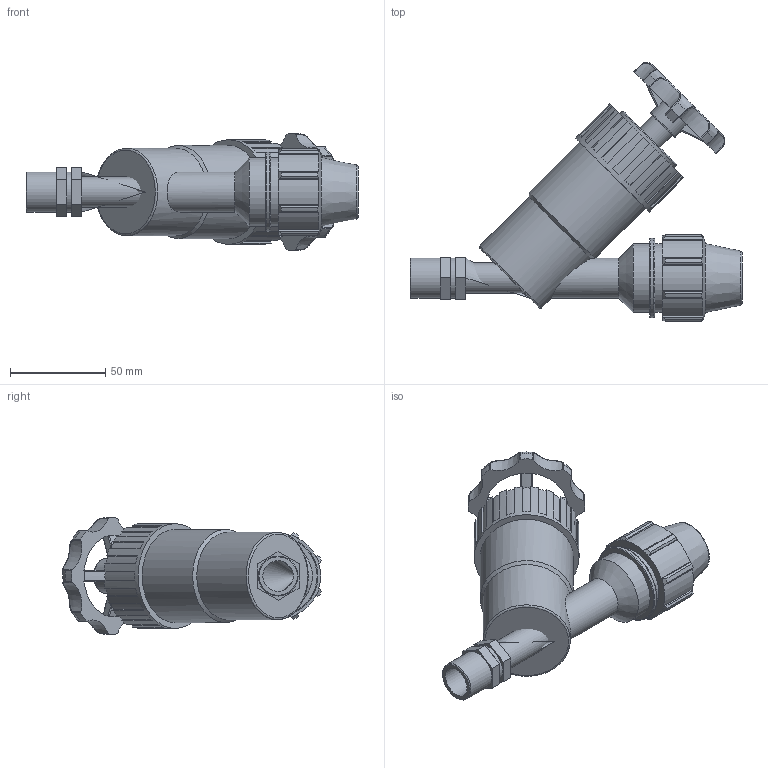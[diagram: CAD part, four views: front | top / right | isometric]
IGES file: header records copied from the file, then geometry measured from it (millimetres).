
Global section: file name: 03048205_030482050A.ipt; native system: Autodesk Inventor 2015; preprocessor: unknown; author: KIM; date: 20180916.173732; units: millimetre
Bounding box: 174 x 135.41 x 61 mm (x, y, z)
Volume: 275868.6 mm3; surface area: 52821.6 mm2
Topology: 1 solids, 1 shells, 272 faces, 756 edges, 497 vertices
Faces by surface type: plane 130, cylinder 73, revolution 28, bspline 24, cone 17
Full cylindrical faces by diameter (mm): 14.645 x1, 18.306 x1, 20.955 x4, 36 x2, 40.273 x1, 41.76 x1, 45.765 x1, 48.816 x1, 54.918 x1
